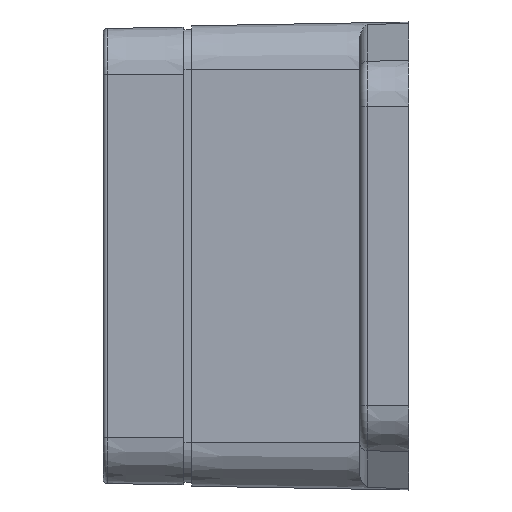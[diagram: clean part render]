
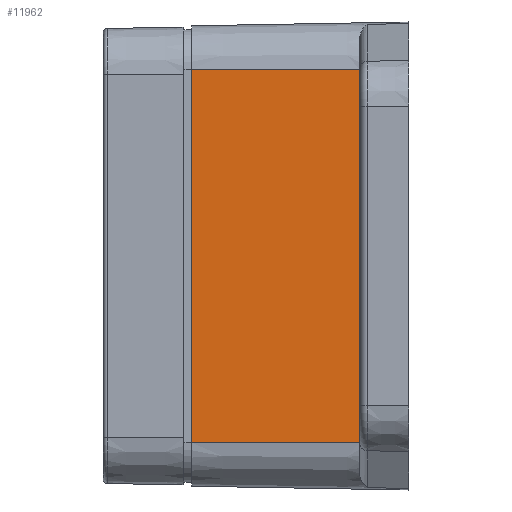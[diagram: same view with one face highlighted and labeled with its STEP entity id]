
A CAD part, left-side view. The second image highlights one B-rep face of the part: STEP entity #11962.
In plain terms, the highlighted planar face has unit normal (-1, 0.018, 0).
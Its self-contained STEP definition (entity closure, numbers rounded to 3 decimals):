
#503 = LINE ( 'NONE', #10394, #20960 ) ;
#3233 = EDGE_CURVE ( 'NONE', #13641, #6472, #503, .T. ) ;
#4274 = CARTESIAN_POINT ( 'NONE',  ( -32.167, -1., 23.65 ) ) ;
#4867 = CARTESIAN_POINT ( 'NONE',  ( -32.539, -22.3, 23.65 ) ) ;
#5981 = FACE_OUTER_BOUND ( 'NONE', #36748, .T. ) ;
#6472 = VERTEX_POINT ( 'NONE', #31944 ) ;
#10207 = EDGE_CURVE ( 'NONE', #13641, #27575, #10622, .T. ) ;
#10394 = CARTESIAN_POINT ( 'NONE',  ( -32.15, 0., 23.65 ) ) ;
#10622 = LINE ( 'NONE', #4867, #24232 ) ;
#11962 = ADVANCED_FACE ( 'NONE', ( #5981 ), #14444, .T. ) ;
#13190 = CARTESIAN_POINT ( 'NONE',  ( -32.539, -22.3, 23.65 ) ) ;
#13641 = VERTEX_POINT ( 'NONE', #13190 ) ;
#13685 = EDGE_CURVE ( 'NONE', #27575, #25282, #24911, .T. ) ;
#14444 = PLANE ( 'NONE',  #25665 ) ;
#15280 = DIRECTION ( 'NONE',  ( 0.017, 1., 0. ) ) ;
#15408 = EDGE_CURVE ( 'NONE', #6472, #25282, #36747, .T. ) ;
#16383 = DIRECTION ( 'NONE',  ( 0., 0., -1. ) ) ;
#17704 = DIRECTION ( 'NONE',  ( -1., 0.017, 0. ) ) ;
#18602 = CARTESIAN_POINT ( 'NONE',  ( -32.167, -1., -23.65 ) ) ;
#20344 = CARTESIAN_POINT ( 'NONE',  ( -32.539, -22.3, -23.65 ) ) ;
#20486 = ORIENTED_EDGE ( 'NONE', *, *, #13685, .F. ) ;
#20857 = VECTOR ( 'NONE', #16383, 1000. ) ;
#20960 = VECTOR ( 'NONE', #15280, 1000. ) ;
#22212 = CARTESIAN_POINT ( 'NONE',  ( -32.15, 0., -23.65 ) ) ;
#24232 = VECTOR ( 'NONE', #36762, 1000. ) ;
#24911 = LINE ( 'NONE', #22212, #28154 ) ;
#25282 = VERTEX_POINT ( 'NONE', #18602 ) ;
#25594 = ORIENTED_EDGE ( 'NONE', *, *, #15408, .T. ) ;
#25665 = AXIS2_PLACEMENT_3D ( 'NONE', #28852, #17704, #25967 ) ;
#25967 = DIRECTION ( 'NONE',  ( -0.017, -1., 0. ) ) ;
#27575 = VERTEX_POINT ( 'NONE', #20344 ) ;
#28154 = VECTOR ( 'NONE', #36639, 1000. ) ;
#28852 = CARTESIAN_POINT ( 'NONE',  ( -32.15, 0., 23.65 ) ) ;
#30640 = ORIENTED_EDGE ( 'NONE', *, *, #3233, .T. ) ;
#31944 = CARTESIAN_POINT ( 'NONE',  ( -32.167, -1., 23.65 ) ) ;
#32813 = ORIENTED_EDGE ( 'NONE', *, *, #10207, .F. ) ;
#36639 = DIRECTION ( 'NONE',  ( 0.017, 1., 0. ) ) ;
#36747 = LINE ( 'NONE', #4274, #20857 ) ;
#36748 = EDGE_LOOP ( 'NONE', ( #30640, #25594, #20486, #32813 ) ) ;
#36762 = DIRECTION ( 'NONE',  ( 0., 0., -1. ) ) ;
